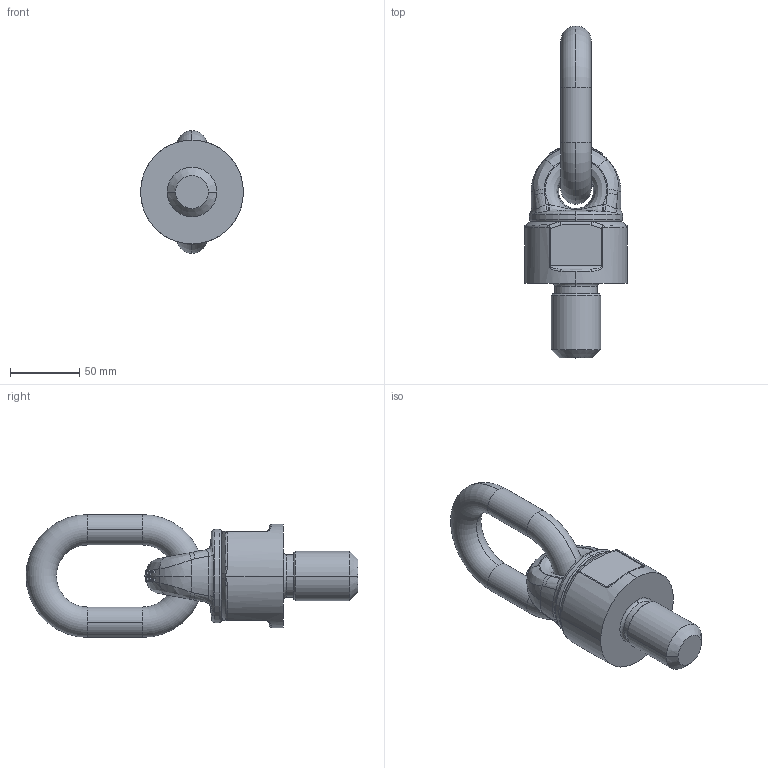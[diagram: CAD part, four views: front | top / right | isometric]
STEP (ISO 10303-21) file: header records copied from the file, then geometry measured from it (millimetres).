
FILE_DESCRIPTION(('STEP AP214'),'1');
FILE_NAME('c8000803654.stp','2017-02-14T10:06:13',('TraceParts'),('TraceParts S.A.'),'Spatial InterOp 3D',' ',' ');
FILE_SCHEMA(('automotive_design'));
Length unit declared in the file: millimetre
Products named in the file (3): c8000803654_1; c8000803654_2; c8000803654_3
Bounding box: 74.36 x 240.4 x 89 mm (x, y, z)
Volume: 429198.9 mm3; surface area: 59790 mm2
Topology: 3 solids, 3 shells, 264 faces, 751 edges, 483 vertices
Faces by surface type: bspline 131, plane 63, cone 34, cylinder 20, torus 12, sphere 4
Entity records: 21570 total; most frequent: CARTESIAN_POINT 13349, ORIENTED_EDGE 1484, DIRECTION 1019, EDGE_CURVE 742, VERTEX_POINT 483, AXIS2_PLACEMENT_3D 429, B_SPLINE_CURVE_WITH_KNOTS 269, STYLED_ITEM 267
